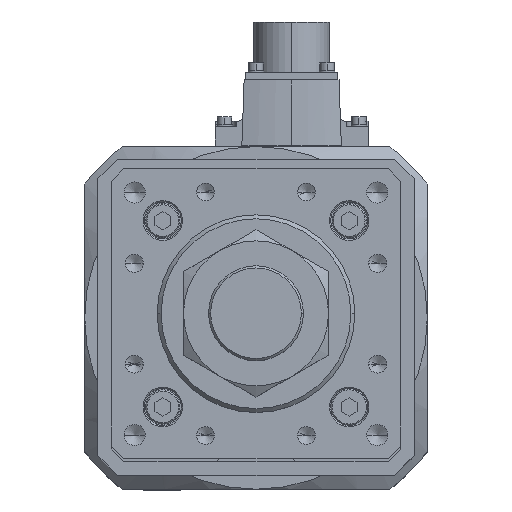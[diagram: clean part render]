
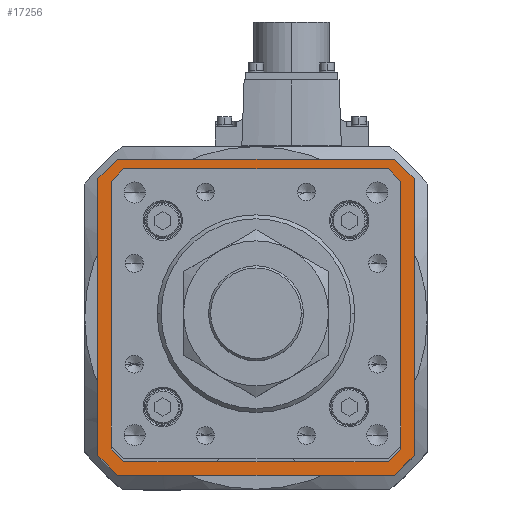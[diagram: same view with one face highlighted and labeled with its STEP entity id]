
A CAD part, top view. The second image highlights one B-rep face of the part: STEP entity #17256.
In plain terms, the highlighted planar face has unit normal (0, 0, 1).
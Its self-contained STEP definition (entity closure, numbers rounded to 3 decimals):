
#313 = LINE ( 'NONE', #13426, #3971 ) ;
#1066 = DIRECTION ( 'NONE',  ( 0., 1., 0. ) ) ;
#1334 = CARTESIAN_POINT ( 'NONE',  ( 53.5, -49.593, -119. ) ) ;
#1342 = LINE ( 'NONE', #6492, #24978 ) ;
#1468 = CARTESIAN_POINT ( 'NONE',  ( 53.5, -49.8, -119. ) ) ;
#2032 = EDGE_CURVE ( 'NONE', #3573, #16650, #1342, .T. ) ;
#2054 = ORIENTED_EDGE ( 'NONE', *, *, #25889, .T. ) ;
#2074 = VERTEX_POINT ( 'NONE', #5581 ) ;
#2136 = CARTESIAN_POINT ( 'NONE',  ( -53.5, -49.593, -119. ) ) ;
#2409 = CARTESIAN_POINT ( 'NONE',  ( 60., -52.5, -119. ) ) ;
#3180 = CARTESIAN_POINT ( 'NONE',  ( 52.5, -60., -119. ) ) ;
#3573 = VERTEX_POINT ( 'NONE', #15976 ) ;
#3784 = DIRECTION ( 'NONE',  ( 0.707, 0.707, 0. ) ) ;
#3902 = FACE_BOUND ( 'NONE', #27230, .T. ) ;
#3971 = VECTOR ( 'NONE', #19626, 1000. ) ;
#4036 = CARTESIAN_POINT ( 'NONE',  ( -52.5, 60., -119. ) ) ;
#4564 = ORIENTED_EDGE ( 'NONE', *, *, #28955, .F. ) ;
#4839 = CARTESIAN_POINT ( 'NONE',  ( -52.5, -60., -119. ) ) ;
#5225 = VECTOR ( 'NONE', #21980, 1000. ) ;
#5539 = CARTESIAN_POINT ( 'NONE',  ( 53.646, 49.446, -119. ) ) ;
#5581 = CARTESIAN_POINT ( 'NONE',  ( 60., -52.5, -119. ) ) ;
#5922 = CARTESIAN_POINT ( 'NONE',  ( 52.5, 60., -119. ) ) ;
#6040 = EDGE_CURVE ( 'NONE', #2074, #13549, #26690, .T. ) ;
#6492 = CARTESIAN_POINT ( 'NONE',  ( 49.8, 53.5, -119. ) ) ;
#6909 = ORIENTED_EDGE ( 'NONE', *, *, #13282, .T. ) ;
#7145 = DIRECTION ( 'NONE',  ( -1., 0., 0. ) ) ;
#7175 = EDGE_CURVE ( 'NONE', #13549, #30629, #30663, .T. ) ;
#7283 = EDGE_CURVE ( 'NONE', #20918, #15968, #22504, .T. ) ;
#7534 = CARTESIAN_POINT ( 'NONE',  ( -49.8, -53.5, -119. ) ) ;
#7816 = VECTOR ( 'NONE', #8859, 1000. ) ;
#8157 = VECTOR ( 'NONE', #1066, 1000. ) ;
#8682 = VERTEX_POINT ( 'NONE', #36057 ) ;
#8803 = VERTEX_POINT ( 'NONE', #2136 ) ;
#8859 = DIRECTION ( 'NONE',  ( 0.707, 0.707, 0. ) ) ;
#8868 = LINE ( 'NONE', #4839, #21130 ) ;
#8890 = ORIENTED_EDGE ( 'NONE', *, *, #7283, .F. ) ;
#9651 = DIRECTION ( 'NONE',  ( 1., 0., 0. ) ) ;
#9790 = LINE ( 'NONE', #17853, #25216 ) ;
#9826 = LINE ( 'NONE', #1468, #27481 ) ;
#9828 = EDGE_LOOP ( 'NONE', ( #8890, #4564, #13961, #19139, #37205, #15431, #18058, #25789 ) ) ;
#9906 = EDGE_CURVE ( 'NONE', #14648, #2074, #26497, .T. ) ;
#10010 = CARTESIAN_POINT ( 'NONE',  ( -60., 52.5, -119. ) ) ;
#10240 = VECTOR ( 'NONE', #26117, 1000. ) ;
#11672 = FACE_OUTER_BOUND ( 'NONE', #9828, .T. ) ;
#12775 = AXIS2_PLACEMENT_3D ( 'NONE', #18395, #32621, #9651 ) ;
#13282 = EDGE_CURVE ( 'NONE', #25266, #8803, #313, .T. ) ;
#13426 = CARTESIAN_POINT ( 'NONE',  ( -53.646, -49.446, -119. ) ) ;
#13549 = VERTEX_POINT ( 'NONE', #3180 ) ;
#13961 = ORIENTED_EDGE ( 'NONE', *, *, #25263, .F. ) ;
#14565 = DIRECTION ( 'NONE',  ( 0.707, -0.707, 0. ) ) ;
#14648 = VERTEX_POINT ( 'NONE', #24407 ) ;
#14908 = ORIENTED_EDGE ( 'NONE', *, *, #15940, .T. ) ;
#15431 = ORIENTED_EDGE ( 'NONE', *, *, #6040, .F. ) ;
#15631 = EDGE_CURVE ( 'NONE', #16520, #19797, #9826, .T. ) ;
#15940 = EDGE_CURVE ( 'NONE', #16650, #16520, #17524, .T. ) ;
#15968 = VERTEX_POINT ( 'NONE', #5922 ) ;
#15976 = CARTESIAN_POINT ( 'NONE',  ( -49.593, 53.5, -119. ) ) ;
#16050 = ORIENTED_EDGE ( 'NONE', *, *, #22412, .T. ) ;
#16520 = VERTEX_POINT ( 'NONE', #26559 ) ;
#16650 = VERTEX_POINT ( 'NONE', #20987 ) ;
#17256 = ADVANCED_FACE ( 'NONE', ( #3902, #11672 ), #35521, .T. ) ;
#17524 = LINE ( 'NONE', #5539, #10240 ) ;
#17853 = CARTESIAN_POINT ( 'NONE',  ( 60., 52.5, -119. ) ) ;
#18000 = DIRECTION ( 'NONE',  ( 0., 1., 0. ) ) ;
#18058 = ORIENTED_EDGE ( 'NONE', *, *, #9906, .F. ) ;
#18395 = CARTESIAN_POINT ( 'NONE',  ( 0., 0., -119. ) ) ;
#18842 = LINE ( 'NONE', #4036, #33356 ) ;
#19139 = ORIENTED_EDGE ( 'NONE', *, *, #28472, .F. ) ;
#19626 = DIRECTION ( 'NONE',  ( -0.707, 0.707, 0. ) ) ;
#19797 = VERTEX_POINT ( 'NONE', #1334 ) ;
#20331 = EDGE_CURVE ( 'NONE', #8803, #32689, #22338, .T. ) ;
#20790 = VECTOR ( 'NONE', #28449, 1000. ) ;
#20918 = VERTEX_POINT ( 'NONE', #26193 ) ;
#20987 = CARTESIAN_POINT ( 'NONE',  ( 49.593, 53.5, -119. ) ) ;
#21130 = VECTOR ( 'NONE', #22628, 1000. ) ;
#21484 = CARTESIAN_POINT ( 'NONE',  ( 52.5, 60., -119. ) ) ;
#21980 = DIRECTION ( 'NONE',  ( 1., 0., 0. ) ) ;
#22338 = LINE ( 'NONE', #32208, #29546 ) ;
#22412 = EDGE_CURVE ( 'NONE', #19797, #33676, #23955, .T. ) ;
#22504 = LINE ( 'NONE', #21484, #5225 ) ;
#22612 = VECTOR ( 'NONE', #7145, 1000. ) ;
#22628 = DIRECTION ( 'NONE',  ( -0.707, 0.707, 0. ) ) ;
#22952 = VECTOR ( 'NONE', #27048, 1000. ) ;
#23880 = CARTESIAN_POINT ( 'NONE',  ( 52.5, -60., -119. ) ) ;
#23955 = LINE ( 'NONE', #27828, #25326 ) ;
#24407 = CARTESIAN_POINT ( 'NONE',  ( 60., 52.5, -119. ) ) ;
#24978 = VECTOR ( 'NONE', #35561, 1000. ) ;
#25167 = VECTOR ( 'NONE', #36176, 1000. ) ;
#25216 = VECTOR ( 'NONE', #14565, 1000. ) ;
#25263 = EDGE_CURVE ( 'NONE', #33636, #8682, #34921, .T. ) ;
#25266 = VERTEX_POINT ( 'NONE', #30151 ) ;
#25326 = VECTOR ( 'NONE', #31012, 1000. ) ;
#25789 = ORIENTED_EDGE ( 'NONE', *, *, #34052, .F. ) ;
#25889 = EDGE_CURVE ( 'NONE', #33676, #25266, #31271, .T. ) ;
#26036 = ORIENTED_EDGE ( 'NONE', *, *, #15631, .T. ) ;
#26117 = DIRECTION ( 'NONE',  ( 0.707, -0.707, 0. ) ) ;
#26193 = CARTESIAN_POINT ( 'NONE',  ( -52.5, 60., -119. ) ) ;
#26497 = LINE ( 'NONE', #30214, #25167 ) ;
#26559 = CARTESIAN_POINT ( 'NONE',  ( 53.5, 49.593, -119. ) ) ;
#26690 = LINE ( 'NONE', #2409, #20790 ) ;
#27048 = DIRECTION ( 'NONE',  ( -1., 0., 0. ) ) ;
#27095 = CARTESIAN_POINT ( 'NONE',  ( 49.593, -53.5, -119. ) ) ;
#27230 = EDGE_LOOP ( 'NONE', ( #30317, #14908, #26036, #16050, #2054, #6909, #33262, #30393 ) ) ;
#27460 = CARTESIAN_POINT ( 'NONE',  ( -60., -52.5, -119. ) ) ;
#27481 = VECTOR ( 'NONE', #36383, 1000. ) ;
#27786 = CARTESIAN_POINT ( 'NONE',  ( -53.5, 49.593, -119. ) ) ;
#27828 = CARTESIAN_POINT ( 'NONE',  ( 49.446, -53.646, -119. ) ) ;
#28228 = LINE ( 'NONE', #35111, #7816 ) ;
#28449 = DIRECTION ( 'NONE',  ( -0.707, -0.707, 0. ) ) ;
#28472 = EDGE_CURVE ( 'NONE', #30629, #33636, #8868, .T. ) ;
#28955 = EDGE_CURVE ( 'NONE', #8682, #20918, #18842, .T. ) ;
#29546 = VECTOR ( 'NONE', #18000, 1000. ) ;
#30151 = CARTESIAN_POINT ( 'NONE',  ( -49.593, -53.5, -119. ) ) ;
#30214 = CARTESIAN_POINT ( 'NONE',  ( 60., 52.5, -119. ) ) ;
#30317 = ORIENTED_EDGE ( 'NONE', *, *, #2032, .T. ) ;
#30393 = ORIENTED_EDGE ( 'NONE', *, *, #35819, .T. ) ;
#30629 = VERTEX_POINT ( 'NONE', #32497 ) ;
#30663 = LINE ( 'NONE', #23880, #22952 ) ;
#31012 = DIRECTION ( 'NONE',  ( -0.707, -0.707, 0. ) ) ;
#31271 = LINE ( 'NONE', #7534, #22612 ) ;
#32208 = CARTESIAN_POINT ( 'NONE',  ( -53.5, 49.8, -119. ) ) ;
#32497 = CARTESIAN_POINT ( 'NONE',  ( -52.5, -60., -119. ) ) ;
#32621 = DIRECTION ( 'NONE',  ( 0., 0., 1. ) ) ;
#32689 = VERTEX_POINT ( 'NONE', #27786 ) ;
#33262 = ORIENTED_EDGE ( 'NONE', *, *, #20331, .T. ) ;
#33356 = VECTOR ( 'NONE', #3784, 1000. ) ;
#33636 = VERTEX_POINT ( 'NONE', #27460 ) ;
#33676 = VERTEX_POINT ( 'NONE', #27095 ) ;
#34052 = EDGE_CURVE ( 'NONE', #15968, #14648, #9790, .T. ) ;
#34921 = LINE ( 'NONE', #10010, #8157 ) ;
#35111 = CARTESIAN_POINT ( 'NONE',  ( -49.446, 53.646, -119. ) ) ;
#35521 = PLANE ( 'NONE',  #12775 ) ;
#35561 = DIRECTION ( 'NONE',  ( 1., 0., 0. ) ) ;
#35819 = EDGE_CURVE ( 'NONE', #32689, #3573, #28228, .T. ) ;
#36057 = CARTESIAN_POINT ( 'NONE',  ( -60., 52.5, -119. ) ) ;
#36176 = DIRECTION ( 'NONE',  ( 0., -1., 0. ) ) ;
#36383 = DIRECTION ( 'NONE',  ( 0., -1., 0. ) ) ;
#37205 = ORIENTED_EDGE ( 'NONE', *, *, #7175, .F. ) ;
